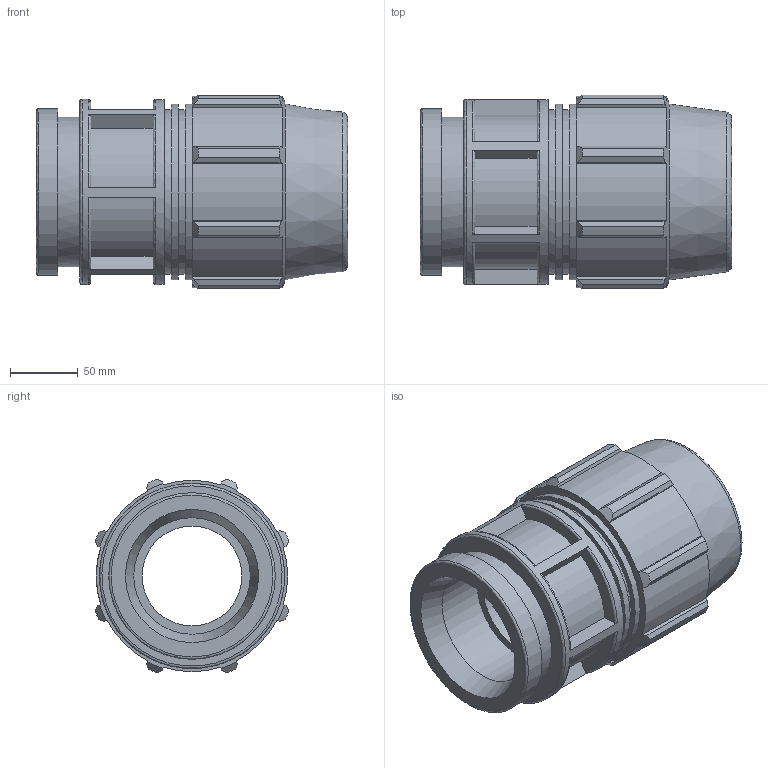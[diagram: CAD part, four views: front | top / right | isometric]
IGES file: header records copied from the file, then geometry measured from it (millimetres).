
Global section: file name: 873200090040.ipt; native system: Autodesk Inventor 2015; preprocessor: unknown; author: KIM; date: 20170608.042720; units: millimetre
Bounding box: 230 x 143.02 x 143.02 mm (x, y, z)
Volume: 1539293.3 mm3; surface area: 207034.8 mm2
Topology: 1 solids, 1 shells, 128 faces, 341 edges, 230 vertices
Faces by surface type: plane 68, cylinder 29, revolution 21, cone 10
Full cylindrical faces by diameter (mm): 110.7 x1, 121.6 x2, 123 x1, 129.96 x2, 136.8 x1
